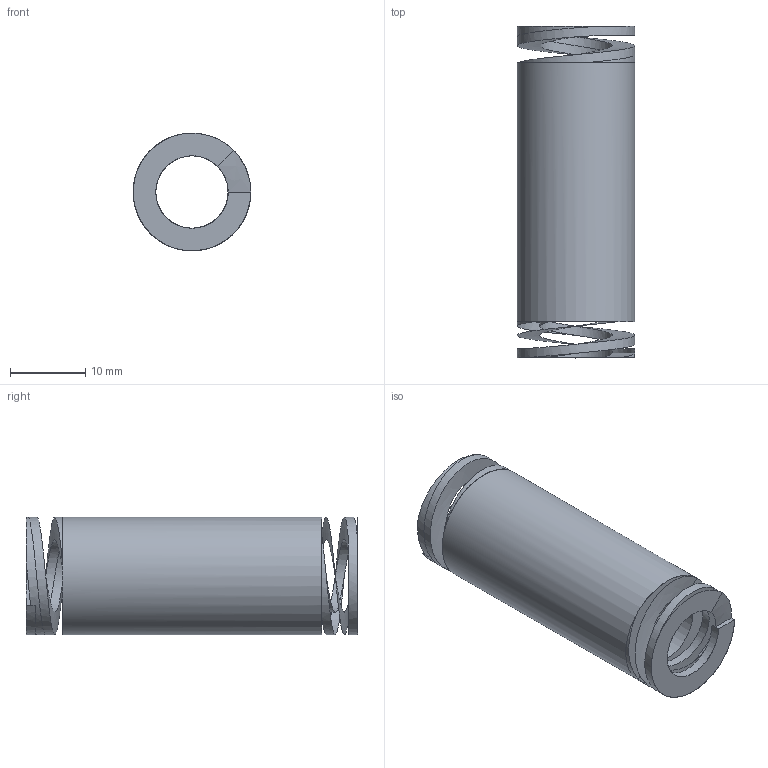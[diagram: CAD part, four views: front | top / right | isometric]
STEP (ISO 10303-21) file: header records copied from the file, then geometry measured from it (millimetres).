
FILE_DESCRIPTION(/* description */ ('Max 30% | 13.2 | 565'),/* implementation_level */ '2;1');
FILE_NAME(/* name */ '3S16045.step',/* time_stamp */ '2026-10-07T11:38:56+02:00',/* author */ ('3S'),/* organization */ ('3,0x2,4 prostokatny'),/* preprocessor_version */ 'ST-DEVELOPER v20.1',/* originating_system */ 'Autodesk Inventor 2026',/* authorisation */ '42.8');
FILE_SCHEMA (('AUTOMOTIVE_DESIGN { 1 0 10303 214 3 1 1 }'));
Length unit declared in the file: millimetre
Products named in the file (1): 3S16045
Bounding box: 15.6 x 44 x 15.61 mm (x, y, z)
Volume: 4791.7 mm3; surface area: 4150 mm2
Topology: 2 solids, 2 shells, 23 faces, 60 edges, 38 vertices
Faces by surface type: bspline 14, plane 7, cylinder 2
Full cylindrical faces by diameter (mm): 9.599 x1, 15.601 x1
Entity records: 2584 total; most frequent: CARTESIAN_POINT 2108, ORIENTED_EDGE 120, EDGE_CURVE 60, B_SPLINE_CURVE_WITH_KNOTS 48, VERTEX_POINT 38, DIRECTION 34, EDGE_LOOP 26, FACE_OUTER_BOUND 22
